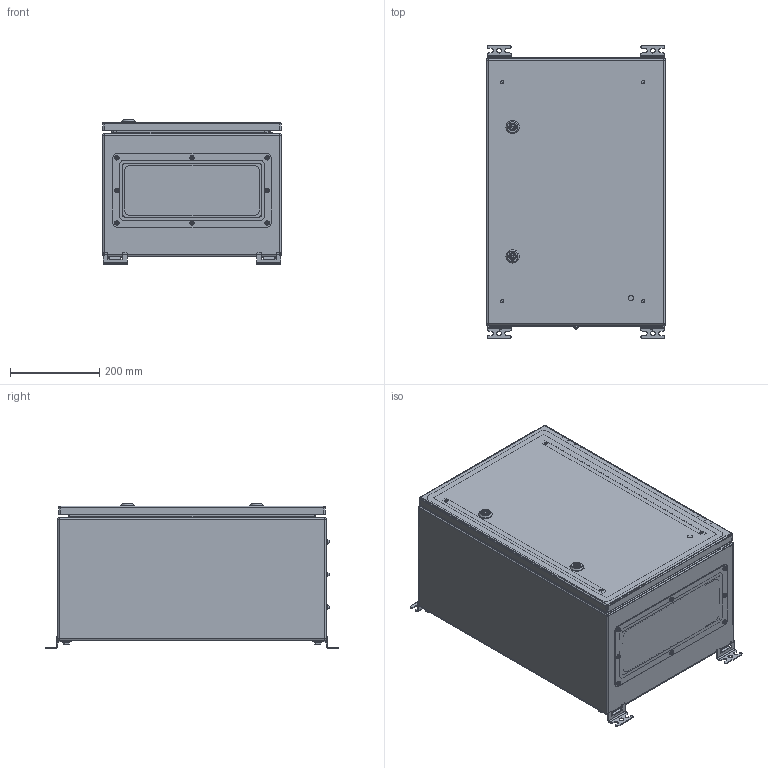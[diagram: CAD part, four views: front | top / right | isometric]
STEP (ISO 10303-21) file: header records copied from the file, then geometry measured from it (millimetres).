
FILE_DESCRIPTION(('STEP AP242'), '1');
FILE_NAME('400 ﾙﾌﾏ-1 (IP-56)', '', ('UNSPECIFIED'), ('UNSPECIFIED'), 'C3D Converter', 'C3D Toolkit', '');
FILE_SCHEMA(('AP242_MANAGED_MODEL_BASED_3D_ENGINEERING_MIM_LF { 1 0 10303 442 1 1 4 }'));
Length unit declared in the file: millimetre
Products named in the file (41): ЩМП-1-Л СБ; 410-Л; 420; 421; 411; 430-Л; 431-Л; 490; 491; 401; 440; 441; 402; 403
Assembly tree (121 placements, depth 4):
  ЩМП-1-Л СБ
    410-Л
      420
        421
        (unnamed)  x6
        (unnamed)
      411
      430-Л
        431-Л
        (unnamed)  x8
    490  x2
      491
      (unnamed)
      (unnamed)
      (unnamed)
      (unnamed)
      (unnamed)
    490  x2
      491
      (unnamed)
      (unnamed)
      (unnamed)
      (unnamed)
      (unnamed)
    401
    (unnamed)  x6
    (unnamed)  x6
    (unnamed)  x6
    (unnamed)  x2
      (unnamed)
      (unnamed)
      (unnamed)
    (unnamed)  x12
    440
      441
      (unnamed)
      (unnamed)  x4
      (unnamed)  x2
    402  x2
    (unnamed)  x4
    (unnamed)  x4
    (unnamed)  x2
      (unnamed)
      (unnamed)
      (unnamed)
      (unnamed)
      (unnamed)
    (unnamed)  x2
    403
    (unnamed)  x8
    (unnamed)  x8
Bounding box: 400 x 656 x 323.1 mm (x, y, z)
Volume: 2521644.1 mm3; surface area: 3034445.2 mm2
Topology: 133 solids, 133 shells, 2609 faces, 6188 edges, 3928 vertices
Faces by surface type: plane 1475, cylinder 756, cone 224, extrusion 54, sphere 36, torus 32, bspline 32
Full cylindrical faces by diameter (mm): 0.5 x4, 2.6 x8, 3.5 x76, 4.134 x8, 4.2 x4, 4.917 x4, 5 x14, 5.5 x12, 5.8 x2, 6 x24, 6.38 x8, 6.4 x12, 6.647 x10, 7 x6, 7.3 x4, 7.5 x6, 7.74 x8, 8 x12, 8.4 x10, 8.5 x24, 8.7 x8, 9 x8, 10 x16, 10.4 x2, 10.5 x6, 11 x10, 11.4 x1, 11.5 x5, 12 x2, 12.3 x4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
Entity records: 67134 total; most frequent: CARTESIAN_POINT 34906, DIRECTION 5260, ORIENTED_EDGE 4988, EDGE_CURVE 2494, AXIS2_PLACEMENT_3D 1943, VERTEX_POINT 1676, EDGE_LOOP 1480, VECTOR 1374
